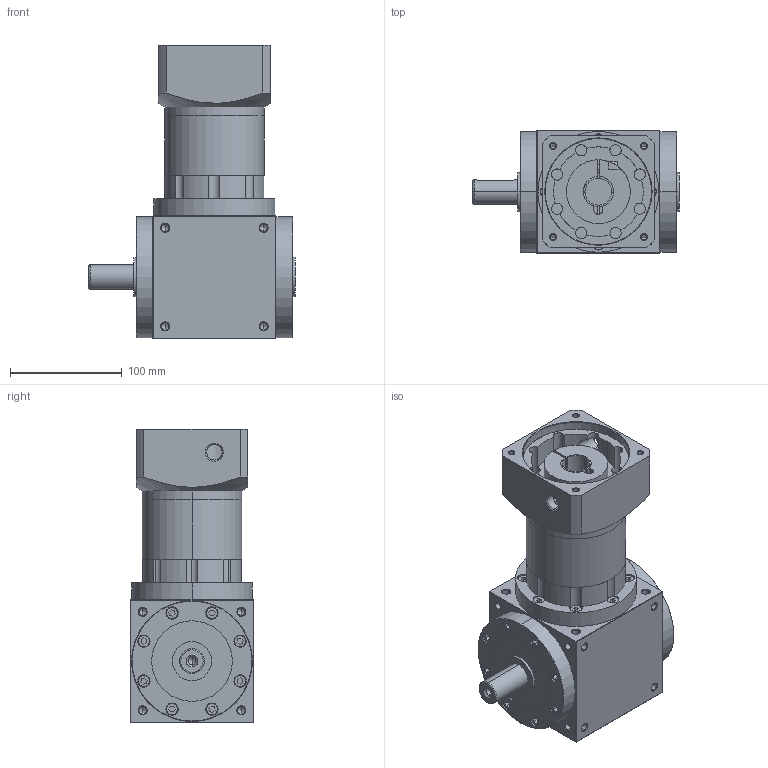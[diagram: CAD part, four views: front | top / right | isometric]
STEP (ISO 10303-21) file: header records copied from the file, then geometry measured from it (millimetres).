
FILE_DESCRIPTION (( 'STEP AP203' ), '1' );
FILE_NAME ('AT120-FL1-L3-24-95-115M6·½100.STEP', '2025-12-20T06:36:52', ( 'Windows User' ), ( 'P R C' ), 'SwSTEP 2.0', 'SolidWorks 2016', '' );
FILE_SCHEMA (( 'CONFIG_CONTROL_DESIGN' ));
Length unit declared in the file: millimetre
Products named in the file (6): AT120怀堤楊擘-蠶講_1; AT120-双级齿圈_1; AT120输入法兰-J-1-50-95-M6-115-方100; 输入胀套-27; AT120-FL1-L3-24-95-115M6源100; AT120转角箱体-左-单轴输出_1
Assembly tree (5 placements, depth 2):
  AT120-FL1-L3-24-95-115M6源100
    AT120转角箱体-左-单轴输出_1
    AT120怀堤楊擘-蠶講_1
    AT120-双级齿圈_1
    AT120输入法兰-J-1-50-95-M6-115-方100
    输入胀套-27
Bounding box: 184 x 110 x 262 mm (x, y, z)
Volume: 1934482.3 mm3; surface area: 282874.4 mm2
Topology: 5 solids, 17 shells, 1623 faces, 4251 edges, 2715 vertices
Faces by surface type: plane 838, cylinder 374, cone 224, bspline 187
Entity records: 58044 total; most frequent: CARTESIAN_POINT 19120, ORIENTED_EDGE 8322, DIRECTION 7256, EDGE_CURVE 4161, VERTEX_POINT 2715, LINE 2678, VECTOR 2678, AXIS2_PLACEMENT_3D 2289
